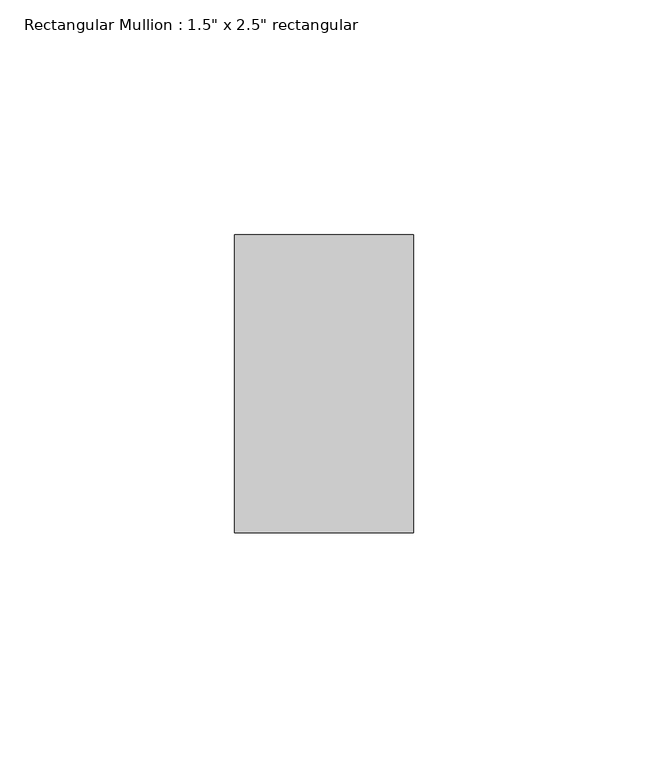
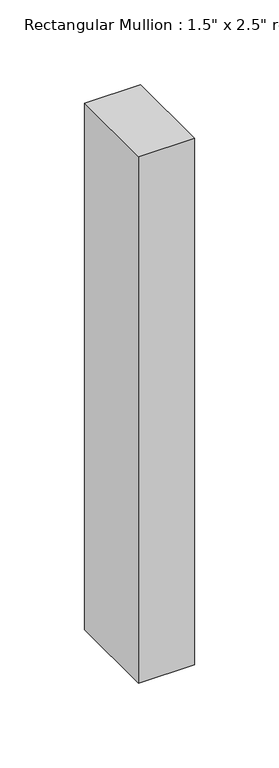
"""IFC4 building model written with IfcOpenShell, lengths in millimetres: member geometry."""

from ifc_helpers import new_model, si_unit, frame, origin, place, context, project, spatial, polyline, outline, extrude, source, transform, mapped, element, save


def member_a1a33733(model_context):
    return source(origin(), model_context, "Body", "SweptSolid", [
        extrude(outline(polyline([(0.0, 31.75), (0.0, -31.75), (-38.1, -31.75), (-38.1, 31.75), (0.0, 31.75)])), frame((0.0, 0.0, -379.1388226), z_axis=(0.0, 0.0, 1.0), x_axis=(1.0, 0.0, 0.0)), (0.0, 0.0, 1.0), 379.1388226),
    ])


if __name__ == "__main__":
    model = new_model("IFC4")
    model_context = context("Model", 3, world=origin())
    ifc_project = project(units=[si_unit("LENGTHUNIT", "METRE", prefix="MILLI")], contexts=[model_context])
    site = spatial("IfcSite", under=ifc_project)
    building = spatial("IfcBuilding", under=site)
    placement = place(None, origin())
    member_shape = member_a1a33733(model_context)
    element("IfcMember", 1, ObjectType="Rectangular Mullion : 1.5\" x 2.5\" rectangular", at=placement, inside=building, context=model_context, shape_type="MappedRepresentation", body=[
        mapped(member_shape, transform((0.0, 0.0, 0.0), x_axis=(1.0, 0.0, 0.0), y_axis=(0.0, 1.0, 0.0), z_axis=(0.0, 0.0, 1.0))),
    ])
    save(model, "model.ifc")
